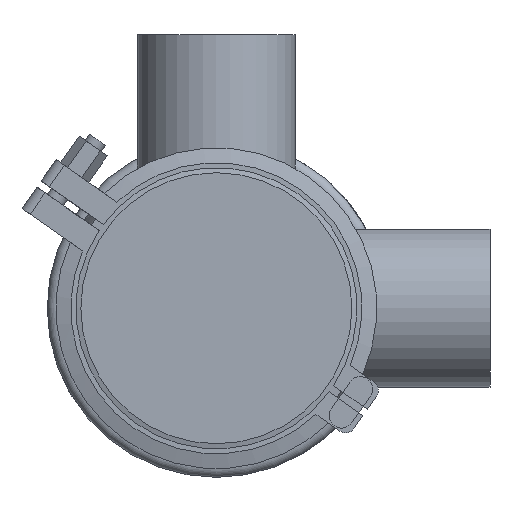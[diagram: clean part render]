
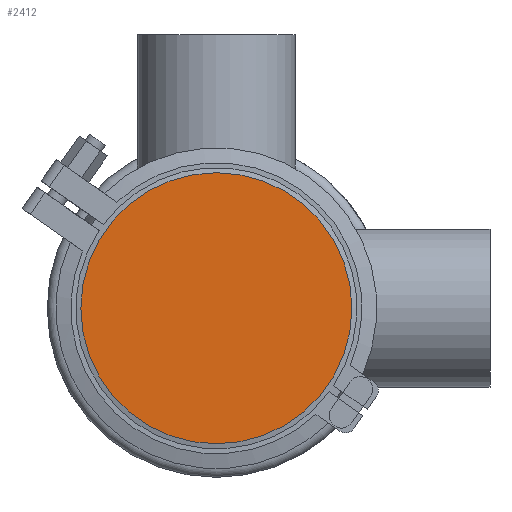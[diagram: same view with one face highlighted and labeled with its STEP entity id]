
A CAD part, front view. The second image highlights one B-rep face of the part: STEP entity #2412.
In plain terms, the highlighted planar face has unit normal (0, -1, 0).
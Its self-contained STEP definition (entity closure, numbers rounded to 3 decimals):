
#38 = DIRECTION ( 'NONE',  ( 0., 1., 0. ) ) ;
#1653 = FACE_OUTER_BOUND ( 'NONE', #2021, .T. ) ;
#2021 = EDGE_LOOP ( 'NONE', ( #17643 ) ) ;
#2412 = ADVANCED_FACE ( 'NONE', ( #1653 ), #13371, .T. ) ;
#4285 = AXIS2_PLACEMENT_3D ( 'NONE', #6977, #38, #14657 ) ;
#6870 = DIRECTION ( 'NONE',  ( 0., -1., 0. ) ) ;
#6977 = CARTESIAN_POINT ( 'NONE',  ( 0., 0., 0. ) ) ;
#11053 = CARTESIAN_POINT ( 'NONE',  ( 0., 0., 54.5 ) ) ;
#12088 = CIRCLE ( 'NONE', #4285, 54.5 ) ;
#12141 = EDGE_CURVE ( 'NONE', #14029, #14029, #12088, .T. ) ;
#13018 = AXIS2_PLACEMENT_3D ( 'NONE', #16332, #6870, #18251 ) ;
#13371 = PLANE ( 'NONE',  #13018 ) ;
#14029 = VERTEX_POINT ( 'NONE', #11053 ) ;
#14657 = DIRECTION ( 'NONE',  ( 0., 0., 1. ) ) ;
#16332 = CARTESIAN_POINT ( 'NONE',  ( -54.5, 0., 0. ) ) ;
#17643 = ORIENTED_EDGE ( 'NONE', *, *, #12141, .F. ) ;
#18251 = DIRECTION ( 'NONE',  ( 0., 0., -1. ) ) ;
